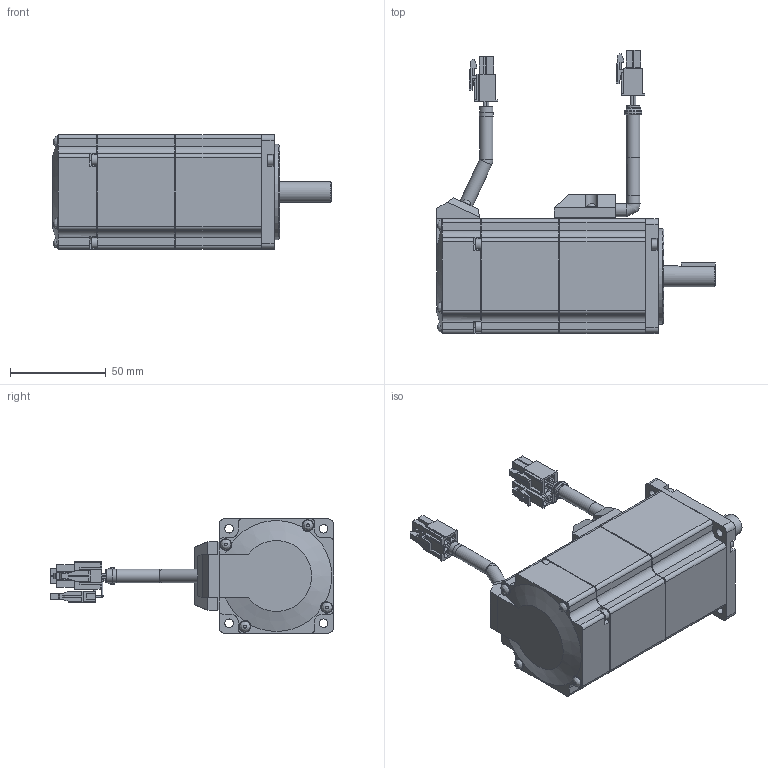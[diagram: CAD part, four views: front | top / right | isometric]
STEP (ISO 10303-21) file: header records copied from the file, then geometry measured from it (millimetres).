
FILE_DESCRIPTION( ( 'STEP AP203' ), '1' );
FILE_NAME( '//expscmdclustefs.cadenas.external/client_exchange/iodir/jobs/output/wkb71153584_no0/STEP/_MSMD022P1TA_2_03.stp', ' ', ( ' ' ), ( ' ' ), 'PSStep 15.0.47', 'PARTsolutions', ' ' );
FILE_SCHEMA( ( 'CONFIG_CONTROL_DESIGN' ) );
Length unit declared in the file: millimetre
Products named in the file (9):  MSMD022P1TA; HI_Motor--02-BPBB; HI_Motoplug--02B; HI_Brake--02P; HI_Motor Connector; HI_Brake Connector; HI_Encoder--02P; HI_Cabel  brake--02-P-6; HI_2500 p/r Connector
Assembly tree (8 placements, depth 2):
   MSMD022P1TA
    HI_Motor--02-BPBB
    HI_Motoplug--02B
    HI_Brake--02P
    HI_Motor Connector
    HI_Brake Connector
    HI_Encoder--02P
    HI_Cabel  brake--02-P-6
    HI_2500 p/r Connector
Bounding box: 146 x 148.3 x 60 mm (x, y, z)
Volume: 403643.7 mm3; surface area: 53674.4 mm2
Topology: 8 solids, 8 shells, 804 faces, 2058 edges, 1347 vertices
Faces by surface type: plane 589, cylinder 183, cone 15, torus 9, bspline 8
Full cylindrical faces by diameter (mm): 1 x14, 1.82 x4, 2.6 x12, 3.242 x1, 4.5 x8, 5.5 x8, 6 x4, 7 x7, 7.2 x1, 9 x1, 11 x1, 11.5 x1, 14.5 x1, 27.5 x1, 50 x1
Entity records: 24107 total; most frequent: CARTESIAN_POINT 4486, DIRECTION 3943, ORIENTED_EDGE 3884, EDGE_CURVE 1942, LINE 1509, VECTOR 1509, VERTEX_POINT 1326, AXIS2_PLACEMENT_3D 1217
